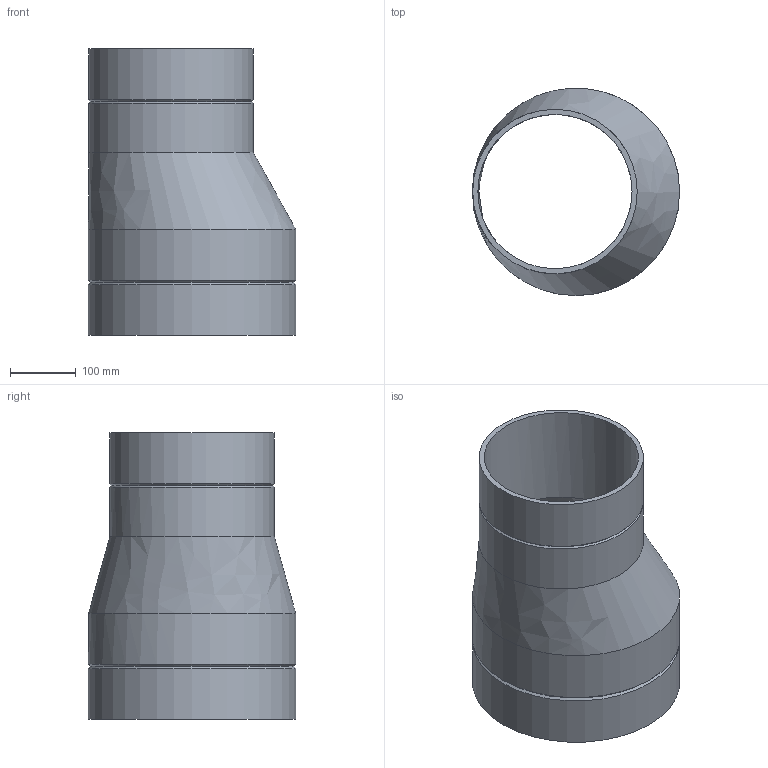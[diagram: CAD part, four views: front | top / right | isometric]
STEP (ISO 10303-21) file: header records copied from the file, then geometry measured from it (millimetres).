
FILE_DESCRIPTION(/* description */ (''),/* implementation_level */ '2;1');
FILE_NAME(/* name */ 'Z:\Geberit\Export\NewStep\372598.stp',/* time_stamp */ '2014-04-02T08:07:01+02:00',/* author */ ('nelson'),/* organization */ (''),/* preprocessor_version */ 'ST-DEVELOPER v15.2',/* originating_system */ 'Autodesk Inventor 2014',/* authorisation */ '');
FILE_SCHEMA (('AUTOMOTIVE_DESIGN { 1 0 10303 214 3 1 1 }'));
Length unit declared in the file: millimetre
Products named in the file (1): 372598
Bounding box: 315 x 315 x 435 mm (x, y, z)
Volume: 3319481.7 mm3; surface area: 778792.4 mm2
Topology: 1 solids, 1 shells, 14 faces, 38 edges, 26 vertices
Faces by surface type: cylinder 6, cone 4, bspline 2, plane 2
Full cylindrical faces by diameter (mm): 234.4 x1, 250 x2, 295.4 x1, 315 x2
Entity records: 417 total; most frequent: CARTESIAN_POINT 93, DIRECTION 66, ORIENTED_EDGE 44, AXIS2_PLACEMENT_3D 33, EDGE_LOOP 26, EDGE_CURVE 22, CIRCLE 20, VERTEX_POINT 20
